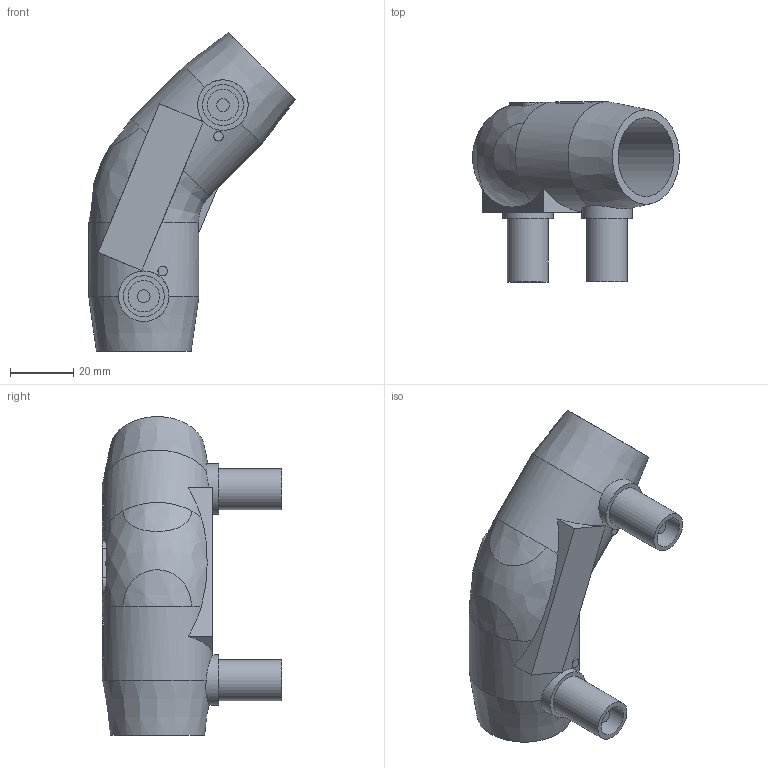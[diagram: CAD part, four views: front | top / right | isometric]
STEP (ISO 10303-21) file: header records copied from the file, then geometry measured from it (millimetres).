
FILE_DESCRIPTION(/* description */ ('Unknown'),/* implementation_level */ '2;1');
FILE_NAME(/* name */ 'GE4P025C',/* time_stamp */ '2020-12-02T08:54:34+01:00',/* author */ ('Unknown'),/* organization */ ('Unknown'),/* preprocessor_version */ 'ST-DEVELOPER v16.7',/* originating_system */ 'Solid Edge',/* authorisation */ 'Unknown');
FILE_SCHEMA (('AUTOMOTIVE_DESIGN {1 0 10303 214 3 1 1}'));
Length unit declared in the file: millimetre
Products named in the file (1): GE4P025C
Bounding box: 65.58 x 57 x 101.08 mm (x, y, z)
Volume: 52801.1 mm3; surface area: 23589.3 mm2
Topology: 1 solids, 1 shells, 72 faces, 168 edges, 111 vertices
Faces by surface type: plane 37, cylinder 28, bspline 5, cone 2
Full cylindrical faces by diameter (mm): 3 x2, 4 x2, 10 x2, 13 x2, 16 x2, 22 x2, 25 x2, 35 x2
Entity records: 3201 total; most frequent: CARTESIAN_POINT 1655, DIRECTION 304, ORIENTED_EDGE 290, EDGE_CURVE 145, AXIS2_PLACEMENT_3D 129, VERTEX_POINT 106, EDGE_LOOP 105, FACE_BOUND 105
